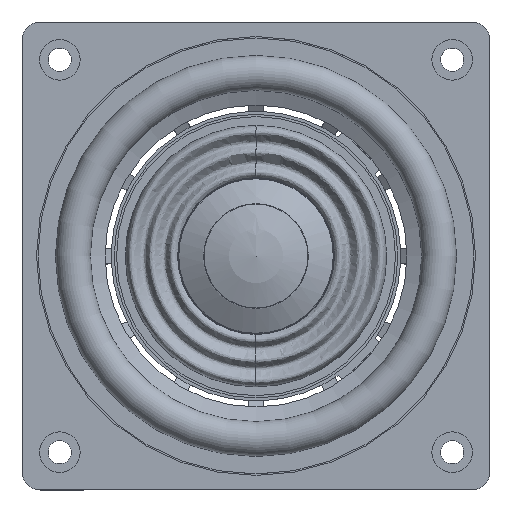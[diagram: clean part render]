
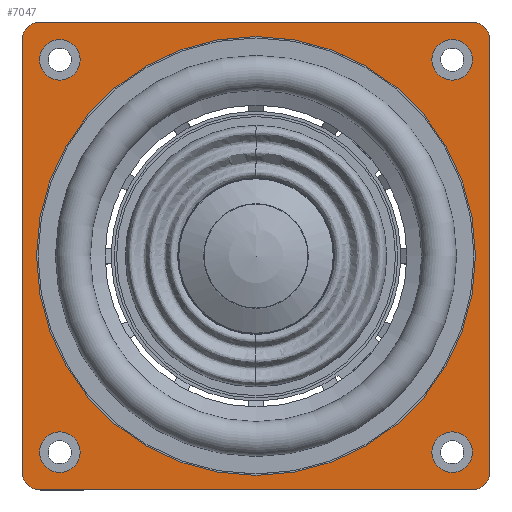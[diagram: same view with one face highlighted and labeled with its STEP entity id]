
A CAD part, top view. The second image highlights one B-rep face of the part: STEP entity #7047.
In plain terms, the highlighted planar face has unit normal (0, 0, 1) as drawn and (0, -1, 0) by its records, which use the part's own axes.
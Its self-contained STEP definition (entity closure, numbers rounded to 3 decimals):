
#97=FACE_BOUND('',#2167,.T.);
#98=FACE_BOUND('',#2168,.T.);
#99=FACE_BOUND('',#2169,.T.);
#100=FACE_BOUND('',#2170,.T.);
#101=FACE_BOUND('',#2171,.T.);
#198=PLANE('',#7587);
#546=LINE('',#12829,#1173);
#608=LINE('',#13163,#1235);
#612=LINE('',#13172,#1239);
#614=LINE('',#13180,#1241);
#1173=VECTOR('',#8719,74.15);
#1235=VECTOR('',#8887,74.15);
#1239=VECTOR('',#8897,74.15);
#1241=VECTOR('',#8907,74.15);
#1783=FACE_OUTER_BOUND('',#2166,.T.);
#2166=EDGE_LOOP('',(#5479,#5480,#5481,#5482,#5483,#5484,#5485,#5486));
#2167=EDGE_LOOP('',(#5487));
#2168=EDGE_LOOP('',(#5488));
#2169=EDGE_LOOP('',(#5489));
#2170=EDGE_LOOP('',(#5490));
#2171=EDGE_LOOP('',(#5491));
#2607=CIRCLE('',#7583,3.175);
#2608=CIRCLE('',#7586,3.175);
#2609=CIRCLE('',#7588,3.175);
#2610=CIRCLE('',#7589,3.175);
#2611=CIRCLE('',#7590,37.75);
#2612=CIRCLE('',#7591,3.5);
#2613=CIRCLE('',#7592,3.5);
#2614=CIRCLE('',#7593,3.5);
#2615=CIRCLE('',#7594,3.5);
#3237=VERTEX_POINT('',#12826);
#3238=VERTEX_POINT('',#12828);
#3327=VERTEX_POINT('',#13161);
#3328=VERTEX_POINT('',#13162);
#3329=VERTEX_POINT('',#13167);
#3330=VERTEX_POINT('',#13171);
#3331=VERTEX_POINT('',#13177);
#3332=VERTEX_POINT('',#13179);
#3333=VERTEX_POINT('',#13182);
#3334=VERTEX_POINT('',#13184);
#3335=VERTEX_POINT('',#13186);
#3336=VERTEX_POINT('',#13188);
#3337=VERTEX_POINT('',#13190);
#4009=EDGE_CURVE('',#3238,#3237,#546,.T.);
#4121=EDGE_CURVE('',#3327,#3328,#608,.T.);
#4124=EDGE_CURVE('',#3329,#3327,#2607,.T.);
#4126=EDGE_CURVE('',#3330,#3329,#612,.T.);
#4128=EDGE_CURVE('',#3237,#3330,#2608,.T.);
#4129=EDGE_CURVE('',#3328,#3331,#2609,.T.);
#4130=EDGE_CURVE('',#3331,#3332,#614,.T.);
#4131=EDGE_CURVE('',#3332,#3238,#2610,.T.);
#4132=EDGE_CURVE('',#3333,#3333,#2611,.T.);
#4133=EDGE_CURVE('',#3334,#3334,#2612,.T.);
#4134=EDGE_CURVE('',#3335,#3335,#2613,.T.);
#4135=EDGE_CURVE('',#3336,#3336,#2614,.T.);
#4136=EDGE_CURVE('',#3337,#3337,#2615,.T.);
#5479=ORIENTED_EDGE('',*,*,#4121,.T.);
#5480=ORIENTED_EDGE('',*,*,#4129,.T.);
#5481=ORIENTED_EDGE('',*,*,#4130,.T.);
#5482=ORIENTED_EDGE('',*,*,#4131,.T.);
#5483=ORIENTED_EDGE('',*,*,#4009,.T.);
#5484=ORIENTED_EDGE('',*,*,#4128,.T.);
#5485=ORIENTED_EDGE('',*,*,#4126,.T.);
#5486=ORIENTED_EDGE('',*,*,#4124,.T.);
#5487=ORIENTED_EDGE('',*,*,#4132,.F.);
#5488=ORIENTED_EDGE('',*,*,#4133,.F.);
#5489=ORIENTED_EDGE('',*,*,#4134,.F.);
#5490=ORIENTED_EDGE('',*,*,#4135,.F.);
#5491=ORIENTED_EDGE('',*,*,#4136,.F.);
#7047=ADVANCED_FACE('',(#1783,#97,#98,#99,#100,#101),#198,.T.);
#7583=AXIS2_PLACEMENT_3D('',#13168,#8892,#8893);
#7586=AXIS2_PLACEMENT_3D('',#13175,#8901,#8902);
#7587=AXIS2_PLACEMENT_3D('',#13176,#8903,#8904);
#7588=AXIS2_PLACEMENT_3D('',#13178,#8905,#8906);
#7589=AXIS2_PLACEMENT_3D('',#13181,#8908,#8909);
#7590=AXIS2_PLACEMENT_3D('',#13183,#8910,#8911);
#7591=AXIS2_PLACEMENT_3D('',#13185,#8912,#8913);
#7592=AXIS2_PLACEMENT_3D('',#13187,#8914,#8915);
#7593=AXIS2_PLACEMENT_3D('',#13189,#8916,#8917);
#7594=AXIS2_PLACEMENT_3D('',#13191,#8918,#8919);
#8719=DIRECTION('',(0.707,0.,-0.707));
#8887=DIRECTION('',(-0.707,0.,0.707));
#8892=DIRECTION('center_axis',(0.,-1.,0.));
#8893=DIRECTION('ref_axis',(0.707,0.,-0.707));
#8897=DIRECTION('',(0.707,0.,0.707));
#8901=DIRECTION('center_axis',(0.,-1.,0.));
#8902=DIRECTION('ref_axis',(-0.707,0.,-0.707));
#8903=DIRECTION('center_axis',(0.,-1.,0.));
#8904=DIRECTION('ref_axis',(-0.707,0.,0.707));
#8905=DIRECTION('center_axis',(0.,-1.,0.));
#8906=DIRECTION('ref_axis',(0.707,0.,0.707));
#8907=DIRECTION('',(-0.707,0.,-0.707));
#8908=DIRECTION('center_axis',(0.,-1.,0.));
#8909=DIRECTION('ref_axis',(-0.707,0.,0.707));
#8910=DIRECTION('center_axis',(0.,-1.,0.));
#8911=DIRECTION('ref_axis',(-0.707,0.,0.707));
#8912=DIRECTION('center_axis',(0.,-1.,0.));
#8913=DIRECTION('ref_axis',(-0.707,0.,0.707));
#8914=DIRECTION('center_axis',(0.,-1.,0.));
#8915=DIRECTION('ref_axis',(0.707,0.,0.707));
#8916=DIRECTION('center_axis',(0.,-1.,0.));
#8917=DIRECTION('ref_axis',(-0.707,0.,-0.707));
#8918=DIRECTION('center_axis',(0.,-1.,0.));
#8919=DIRECTION('ref_axis',(0.707,0.,-0.707));
#12826=CARTESIAN_POINT('',(-2.245,-13.7,-80.427));
#12828=CARTESIAN_POINT('',(-54.677,-13.7,-27.995));
#12829=CARTESIAN_POINT('',(-54.677,-13.7,-27.995));
#13161=CARTESIAN_POINT('',(54.677,-13.7,-23.505));
#13162=CARTESIAN_POINT('',(2.245,-13.7,28.927));
#13163=CARTESIAN_POINT('',(54.677,-13.7,-23.505));
#13167=CARTESIAN_POINT('',(54.677,-13.7,-27.995));
#13168=CARTESIAN_POINT('Origin',(52.432,-13.7,-25.75));
#13171=CARTESIAN_POINT('',(2.245,-13.7,-80.427));
#13172=CARTESIAN_POINT('',(2.245,-13.7,-80.427));
#13175=CARTESIAN_POINT('Origin',(0.,-13.7,-78.182));
#13176=CARTESIAN_POINT('Origin',(0.,-13.7,-25.75));
#13177=CARTESIAN_POINT('',(-2.245,-13.7,28.927));
#13178=CARTESIAN_POINT('Origin',(0.,-13.7,26.682));
#13179=CARTESIAN_POINT('',(-54.677,-13.7,-23.505));
#13180=CARTESIAN_POINT('',(-2.245,-13.7,28.927));
#13181=CARTESIAN_POINT('Origin',(-52.432,-13.7,-25.75));
#13182=CARTESIAN_POINT('',(26.693,-13.7,-52.443));
#13183=CARTESIAN_POINT('Origin',(0.,-13.7,-25.75));
#13184=CARTESIAN_POINT('',(-45.255,-13.7,-28.225));
#13185=CARTESIAN_POINT('Origin',(-47.73,-13.7,-25.75));
#13186=CARTESIAN_POINT('',(-2.475,-13.7,19.505));
#13187=CARTESIAN_POINT('Origin',(0.,-13.7,21.98));
#13188=CARTESIAN_POINT('',(2.475,-13.7,-71.005));
#13189=CARTESIAN_POINT('Origin',(0.,-13.7,-73.48));
#13190=CARTESIAN_POINT('',(45.255,-13.7,-23.275));
#13191=CARTESIAN_POINT('Origin',(47.73,-13.7,-25.75));
